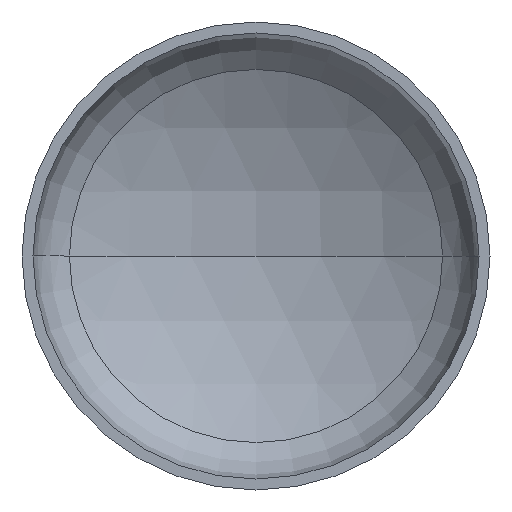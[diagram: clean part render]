
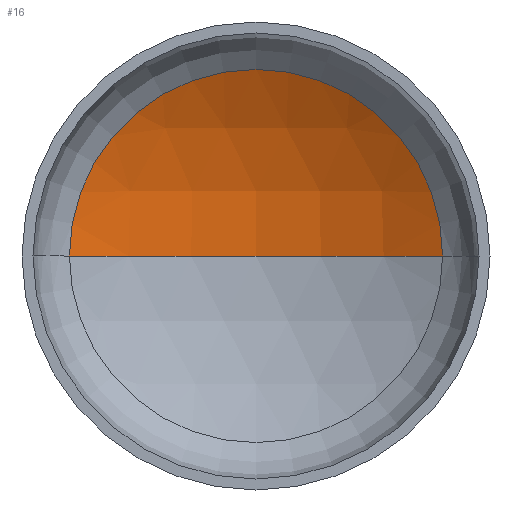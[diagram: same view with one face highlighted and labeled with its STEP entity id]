
A CAD part, front view. The second image highlights one B-rep face of the part: STEP entity #16.
In plain terms, the highlighted spherical face has radius 1600 mm.
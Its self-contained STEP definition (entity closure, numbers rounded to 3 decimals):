
#5 = EDGE_CURVE ( 'NONE', #197, #180, #388, .T. ) ;
#16 = ADVANCED_FACE ( 'NONE', ( #321 ), #71, .F. ) ;
#23 = VERTEX_POINT ( 'NONE', #209 ) ;
#40 = EDGE_CURVE ( 'NONE', #197, #23, #379, .T. ) ;
#48 = ORIENTED_EDGE ( 'NONE', *, *, #289, .T. ) ;
#71 = SPHERICAL_SURFACE ( 'NONE', #347, 1600. ) ;
#99 = CARTESIAN_POINT ( 'NONE',  ( 0., 418.745, 0. ) ) ;
#131 = ORIENTED_EDGE ( 'NONE', *, *, #40, .T. ) ;
#147 = ORIENTED_EDGE ( 'NONE', *, *, #5, .F. ) ;
#180 = VERTEX_POINT ( 'NONE', #328 ) ;
#184 = DIRECTION ( 'NONE',  ( 0., -1., 0. ) ) ;
#197 = VERTEX_POINT ( 'NONE', #239 ) ;
#202 = CIRCLE ( 'NONE', #389, 797.519 ) ;
#209 = CARTESIAN_POINT ( 'NONE',  ( 797.519, 418.745, 0. ) ) ;
#232 = DIRECTION ( 'NONE',  ( -1., 0., 0. ) ) ;
#234 = DIRECTION ( 'NONE',  ( 1., 0., 0. ) ) ;
#237 = CARTESIAN_POINT ( 'NONE',  ( 0., -968.325, 0. ) ) ;
#239 = CARTESIAN_POINT ( 'NONE',  ( 0., 631.675, 0. ) ) ;
#246 = DIRECTION ( 'NONE',  ( 0., 0., 1. ) ) ;
#281 = CARTESIAN_POINT ( 'NONE',  ( 0., -968.325, 0. ) ) ;
#289 = EDGE_CURVE ( 'NONE', #23, #180, #202, .T. ) ;
#294 = DIRECTION ( 'NONE',  ( 1., 0., 0. ) ) ;
#310 = AXIS2_PLACEMENT_3D ( 'NONE', #281, #246, #234 ) ;
#321 = FACE_OUTER_BOUND ( 'NONE', #343, .T. ) ;
#328 = CARTESIAN_POINT ( 'NONE',  ( -797.519, 418.745, 0. ) ) ;
#330 = CARTESIAN_POINT ( 'NONE',  ( 0., -968.325, 0. ) ) ;
#343 = EDGE_LOOP ( 'NONE', ( #147, #131, #48 ) ) ;
#344 = DIRECTION ( 'NONE',  ( 0., 0., -1. ) ) ;
#346 = DIRECTION ( 'NONE',  ( -1., 0., 0. ) ) ;
#347 = AXIS2_PLACEMENT_3D ( 'NONE', #237, #344, #232 ) ;
#379 = CIRCLE ( 'NONE', #394, 1600. ) ;
#388 = CIRCLE ( 'NONE', #310, 1600. ) ;
#389 = AXIS2_PLACEMENT_3D ( 'NONE', #99, #184, #294 ) ;
#394 = AXIS2_PLACEMENT_3D ( 'NONE', #330, #396, #346 ) ;
#396 = DIRECTION ( 'NONE',  ( 0., 0., -1. ) ) ;
